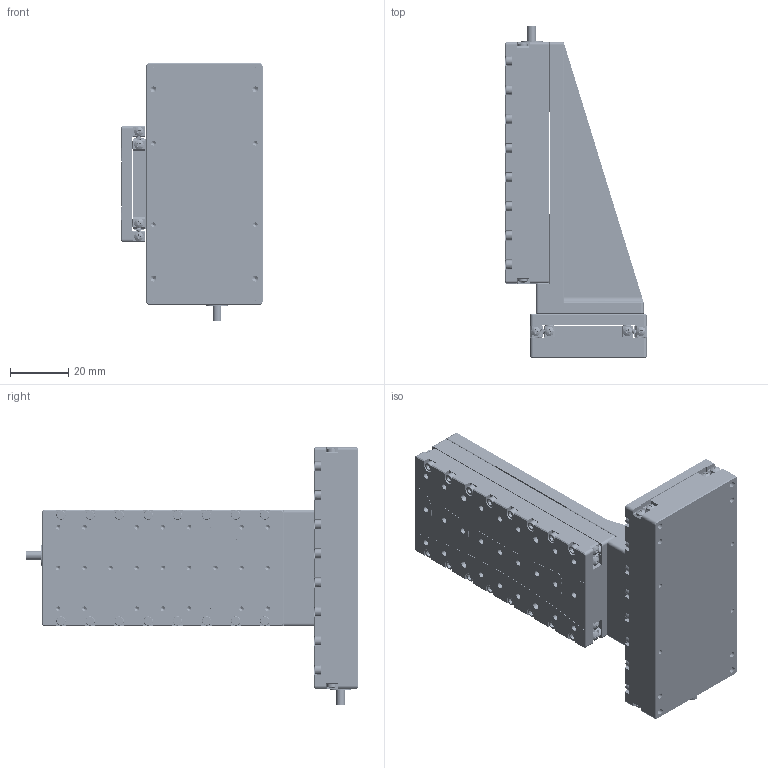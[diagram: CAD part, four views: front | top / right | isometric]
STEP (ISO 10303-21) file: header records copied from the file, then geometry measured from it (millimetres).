
FILE_DESCRIPTION (( 'STEP AP214' ), '1' );
FILE_NAME ('N56.XZ50E-B1闭环二维直线压电马达3D图（25.08.01）.STEP', '2026-05-26T06:50:19', ( '微软用户' ), ( '微软中国' ), 'SwSTEP 2.0', 'SolidWorks 2016', '' );
FILE_SCHEMA (( 'AUTOMOTIVE_DESIGN' ));
Length unit declared in the file: millimetre
Products named in the file (1): N56.XZ50E-B1闭环二维直线压电马达3D图（25.08.01）
Bounding box: 48.5 x 114 x 88.5 mm (x, y, z)
Volume: 106637.2 mm3; surface area: 74493.3 mm2
Topology: 185 solids, 193 shells, 4412 faces, 10958 edges, 7004 vertices
Faces by surface type: plane 2114, cylinder 1708, cone 430, bspline 160
Entity records: 182866 total; most frequent: CARTESIAN_POINT 26393, DIRECTION 22814, ORIENTED_EDGE 21276, EDGE_CURVE 10638, AXIS2_PLACEMENT_3D 8501, VERTEX_POINT 7004, LINE 5812, VECTOR 5812
